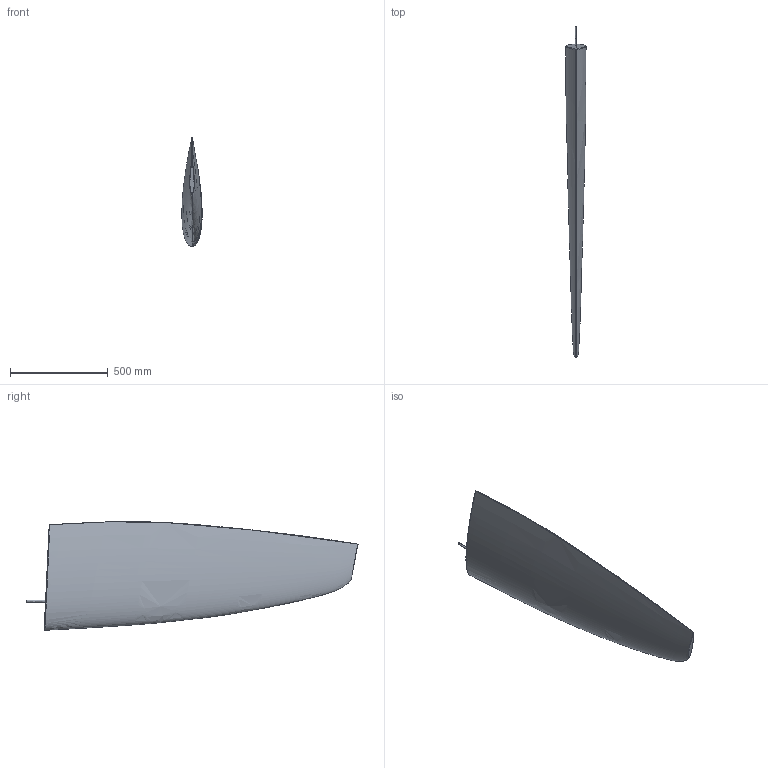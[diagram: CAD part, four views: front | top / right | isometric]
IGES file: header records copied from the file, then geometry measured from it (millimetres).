
Start section: SolidWorks IGES file using analytic representation for surfaces
Global section: file name: J:\Kartotek\Jefa Marine\GRP rudder blade\Jefa rudder blade\Rudderblade RUD34 for 30 to 38ft.IGS; native system: SolidWorks 2008; preprocessor: SolidWorks 2008; author: Klaus Jeppsen; date: 080904.132134; units: millimetre
Bounding box: 103.52 x 1700.3 x 556.37 mm (x, y, z)
Surface area: 1494721.7 mm2 (no closed solid volume)
Topology: 0 solids, 0 shells, 15 faces, 439 edges, 439 vertices
Faces by surface type: bspline 13, revolution 2
